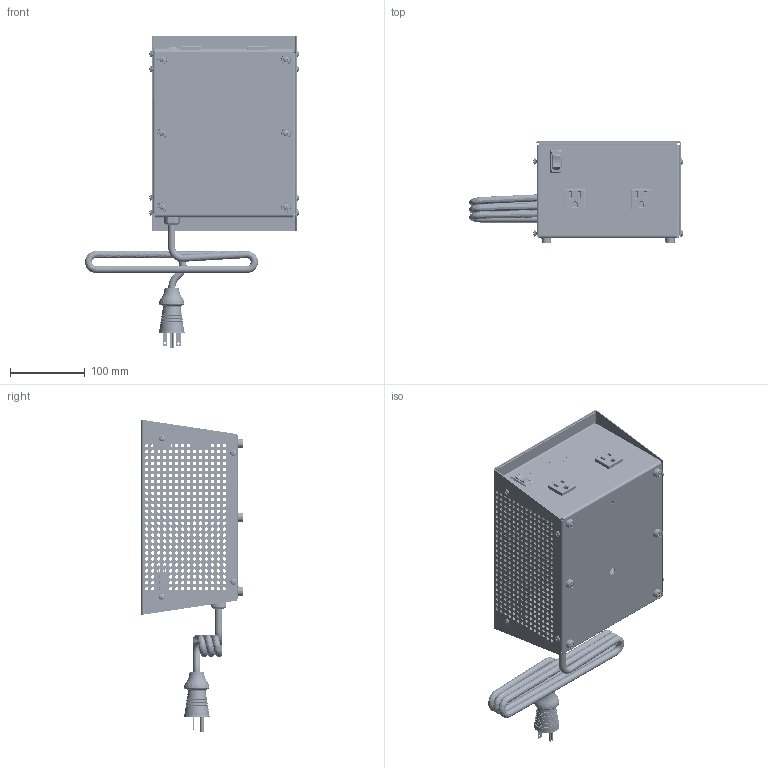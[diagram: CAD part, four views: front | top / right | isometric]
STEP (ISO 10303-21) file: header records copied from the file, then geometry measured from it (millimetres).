
FILE_DESCRIPTION(/* description */ (''),/* implementation_level */ '2;1');
FILE_NAME(/* name */ '289FT.stp',/* time_stamp */ '2026-06-02T15:23:51-04:00',/* author */ ('tfoster'),/* organization */ (''),/* preprocessor_version */ 'ST-DEVELOPER v20.1',/* originating_system */ 'Autodesk Inventor 2026',/* authorisation */ '');
FILE_SCHEMA (('AUTOMOTIVE_DESIGN { 1 0 10303 214 3 1 1 }'));
Products named in the file (11): 178GT; MTGR70763-2B; MTGR70763-1B; Receptacle; Power Switch Assembly; Power Switch; Power Switch pt; 240VAC plug; 10amp Reset Switch; Feet; 8-32 screw
Assembly tree (29 placements, depth 3):
  178GT
    MTGR70763-2B
    MTGR70763-1B
    Receptacle  x2
    Power Switch Assembly
      Power Switch
      Power Switch pt
    240VAC plug
    10amp Reset Switch
    Feet  x6
    8-32 screw  x14
Bounding box: 285.04 x 134.8 x 416.81 mm (x, y, z)
Volume: 467348.1 mm3; surface area: 495718.5 mm2
Topology: 28 solids, 28 shells, 2754 faces, 7560 edges, 4967 vertices
Faces by surface type: cylinder 1242, plane 1053, bspline 253, cone 145, torus 39, sphere 22
Full cylindrical faces by diameter (mm): 1 x1, 1.803 x3, 1.905 x2, 2.286 x1, 3.134 x98, 3.175 x2, 3.81 x8, 4.064 x6, 4.14 x1, 4.166 x84, 4.496 x700, 5.41 x6, 5.537 x8, 7.62 x6, 8.179 x14, 9.5 x5, 9.779 x1, 11 x1
Entity records: 68410 total; most frequent: CARTESIAN_POINT 15792, ORIENTED_EDGE 10404, DIRECTION 9921, EDGE_CURVE 5202, AXIS2_PLACEMENT_3D 3479, EDGE_LOOP 3455, VERTEX_POINT 3417, LINE 2963
